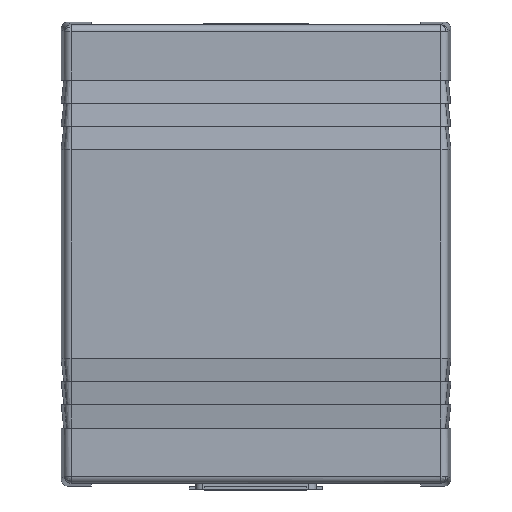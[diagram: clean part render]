
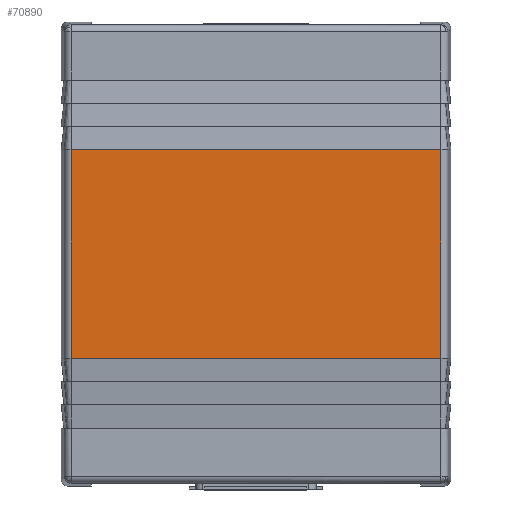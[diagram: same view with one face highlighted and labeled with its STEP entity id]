
A CAD part, front view. The second image highlights one B-rep face of the part: STEP entity #70890.
In plain terms, the highlighted planar face has unit normal (0, -1, 0).
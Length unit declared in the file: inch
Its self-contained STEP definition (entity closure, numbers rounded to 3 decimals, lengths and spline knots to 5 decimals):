
#2390 = FACE_OUTER_BOUND ( 'NONE', #59133, .T. ) ;
#2431 = CARTESIAN_POINT ( 'NONE',  ( 0.79717, 0., 0.45 ) ) ;
#5540 = VECTOR ( 'NONE', #64305, 39.37008 ) ;
#8233 = DIRECTION ( 'NONE',  ( 0., 0., -1. ) ) ;
#10254 = CARTESIAN_POINT ( 'NONE',  ( -0.79717, 0., 0.45 ) ) ;
#12205 = DIRECTION ( 'NONE',  ( 0., 0., 1. ) ) ;
#12460 = DIRECTION ( 'NONE',  ( 0., 1., 0. ) ) ;
#20105 = CARTESIAN_POINT ( 'NONE',  ( -0.79717, 0., -0.45 ) ) ;
#20288 = EDGE_CURVE ( 'NONE', #39373, #25223, #38900, .T. ) ;
#20817 = LINE ( 'NONE', #23969, #5540 ) ;
#21844 = VECTOR ( 'NONE', #12205, 39.37008 ) ;
#23969 = CARTESIAN_POINT ( 'NONE',  ( 0., 0., 0.45 ) ) ;
#25223 = VERTEX_POINT ( 'NONE', #10254 ) ;
#27091 = CARTESIAN_POINT ( 'NONE',  ( 0.79717, 0., -0.45 ) ) ;
#28866 = ORIENTED_EDGE ( 'NONE', *, *, #61539, .F. ) ;
#29256 = CARTESIAN_POINT ( 'NONE',  ( 0., 0., 0. ) ) ;
#30007 = CARTESIAN_POINT ( 'NONE',  ( -0.79717, 0., 0.7515 ) ) ;
#31979 = ORIENTED_EDGE ( 'NONE', *, *, #34866, .T. ) ;
#33379 = VERTEX_POINT ( 'NONE', #2431 ) ;
#34866 = EDGE_CURVE ( 'NONE', #39373, #70218, #43109, .T. ) ;
#35517 = DIRECTION ( 'NONE',  ( 1., 0., 0. ) ) ;
#38900 = LINE ( 'NONE', #30007, #21844 ) ;
#39373 = VERTEX_POINT ( 'NONE', #20105 ) ;
#40527 = ORIENTED_EDGE ( 'NONE', *, *, #69620, .F. ) ;
#42030 = LINE ( 'NONE', #71894, #48315 ) ;
#43109 = LINE ( 'NONE', #63805, #51207 ) ;
#48315 = VECTOR ( 'NONE', #8233, 39.37008 ) ;
#49252 = ORIENTED_EDGE ( 'NONE', *, *, #20288, .F. ) ;
#51207 = VECTOR ( 'NONE', #35517, 39.37008 ) ;
#52157 = DIRECTION ( 'NONE',  ( 0., 0., 1. ) ) ;
#59133 = EDGE_LOOP ( 'NONE', ( #31979, #40527, #28866, #49252 ) ) ;
#61539 = EDGE_CURVE ( 'NONE', #25223, #33379, #20817, .T. ) ;
#63572 = PLANE ( 'NONE',  #67766 ) ;
#63805 = CARTESIAN_POINT ( 'NONE',  ( -0.79717, 0., -0.45 ) ) ;
#64305 = DIRECTION ( 'NONE',  ( 1., 0., 0. ) ) ;
#67766 = AXIS2_PLACEMENT_3D ( 'NONE', #29256, #12460, #52157 ) ;
#69620 = EDGE_CURVE ( 'NONE', #33379, #70218, #42030, .T. ) ;
#70218 = VERTEX_POINT ( 'NONE', #27091 ) ;
#70890 = ADVANCED_FACE ( 'NONE', ( #2390 ), #63572, .F. ) ;
#71894 = CARTESIAN_POINT ( 'NONE',  ( 0.79717, 0., -0.7515 ) ) ;
